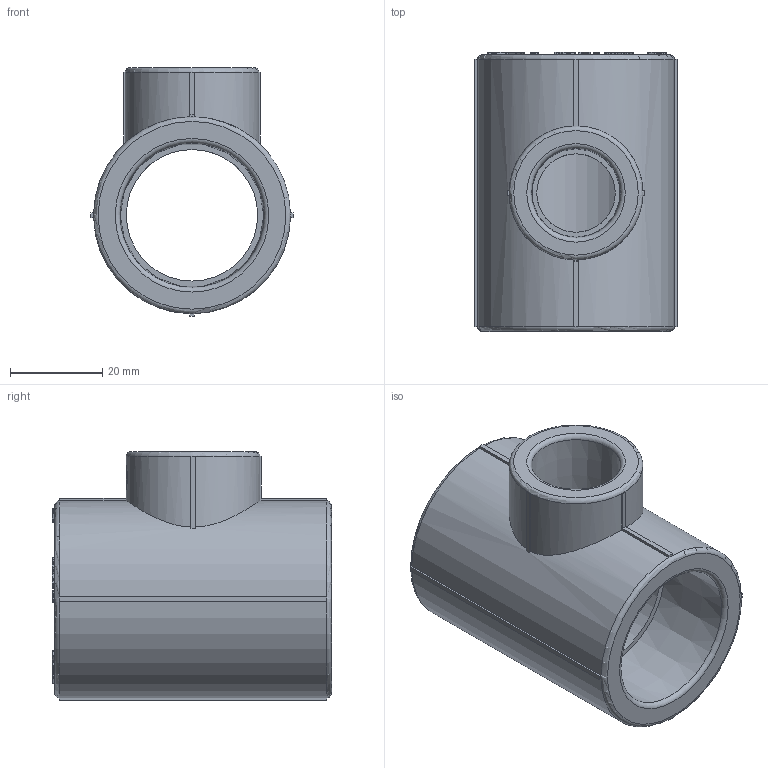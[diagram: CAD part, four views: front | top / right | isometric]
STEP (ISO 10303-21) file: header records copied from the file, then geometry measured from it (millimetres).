
FILE_DESCRIPTION(('STEP AP203'), '1');
FILE_NAME('ÂÐ.752241.057 - VTp.735.0.032020032', '', ('UNSPECIFIED'), ('UNSPECIFIED'), 'C3D Converter', 'C3D Toolkit', '');
FILE_SCHEMA(('CONFIG_CONTROL_DESIGN'));
Length unit declared in the file: millimetre
Products named in the file (1): ВР.752241.057
Bounding box: 43.8 x 60.5 x 53.9 mm (x, y, z)
Volume: 45719.4 mm3; surface area: 17236.8 mm2
Topology: 1 solids, 1 shells, 1126 faces, 3163 edges, 2100 vertices
Faces by surface type: extrusion 670, plane 412, cylinder 35, torus 6, cone 3
Full cylindrical faces by diameter (mm): 6 x1, 17 x1, 28.5 x1
Entity records: 41270 total; most frequent: CARTESIAN_POINT 15700, ORIENTED_EDGE 6302, EDGE_CURVE 3151, DIRECTION 3143, VECTOR 2139, VERTEX_POINT 2100, B_SPLINE_CURVE_WITH_KNOTS 2017, LINE 1469
